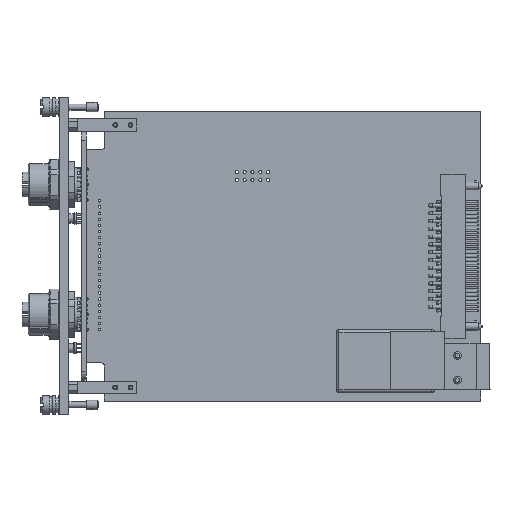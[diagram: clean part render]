
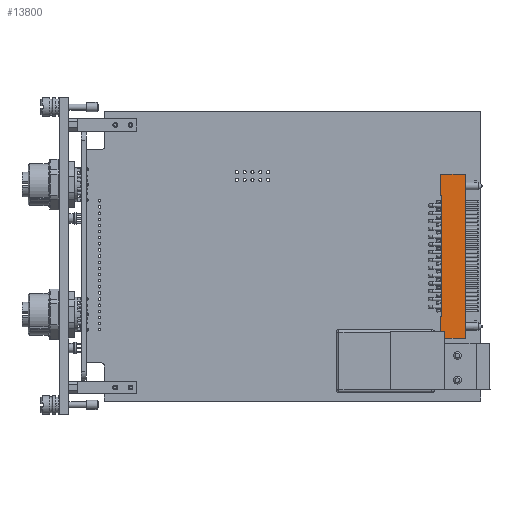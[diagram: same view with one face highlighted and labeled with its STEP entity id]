
A CAD part, top view. The second image highlights one B-rep face of the part: STEP entity #13800.
In plain terms, the highlighted planar face has unit normal (0, 0, 1).
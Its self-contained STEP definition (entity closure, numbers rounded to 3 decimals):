
#13800=ADVANCED_FACE('',(#37371),#37373,.F.);
#37371=FACE_BOUND('',#37372,.T.);
#37372=EDGE_LOOP('',(#54987,#54988,#54989,#54990,#54991,#54992,#54993,#54994));
#37373=PLANE('',#37374);
#37374=AXIS2_PLACEMENT_3D('',#37375,#37376,#37377);
#37375=CARTESIAN_POINT('',(166.325,59.,6.363));
#37376=DIRECTION('',(0.,0.,-1.));
#37377=DIRECTION('',(-1.,0.,0.));
#54987=ORIENTED_EDGE('',*,*,#63408,.T.);
#54988=ORIENTED_EDGE('',*,*,#63451,.T.);
#54989=ORIENTED_EDGE('',*,*,#63449,.T.);
#54990=ORIENTED_EDGE('',*,*,#63447,.T.);
#54991=ORIENTED_EDGE('',*,*,#63445,.T.);
#54992=ORIENTED_EDGE('',*,*,#63414,.T.);
#54993=ORIENTED_EDGE('',*,*,#63412,.T.);
#54994=ORIENTED_EDGE('',*,*,#63410,.T.);
#63408=EDGE_CURVE('',#72402,#72400,#72403,.T.);
#63410=EDGE_CURVE('',#72405,#72402,#72406,.T.);
#63412=EDGE_CURVE('',#72408,#72405,#72409,.T.);
#63414=EDGE_CURVE('',#72411,#72408,#72412,.T.);
#63445=EDGE_CURVE('',#72472,#72411,#72473,.T.);
#63447=EDGE_CURVE('',#72475,#72472,#72476,.T.);
#63449=EDGE_CURVE('',#72478,#72475,#72479,.T.);
#63451=EDGE_CURVE('',#72400,#72478,#72481,.T.);
#72400=VERTEX_POINT('',#98452);
#72402=VERTEX_POINT('',#98456);
#72403=LINE('',#98457,#98458);
#72405=VERTEX_POINT('',#98463);
#72406=LINE('',#98464,#98465);
#72408=VERTEX_POINT('',#98470);
#72409=LINE('',#98471,#98472);
#72411=VERTEX_POINT('',#98477);
#72412=LINE('',#98478,#98479);
#72472=VERTEX_POINT('',#98629);
#72473=LINE('',#98630,#98631);
#72475=VERTEX_POINT('',#98636);
#72476=LINE('',#98637,#98638);
#72478=VERTEX_POINT('',#98643);
#72479=LINE('',#98644,#98645);
#72481=LINE('',#98650,#98651);
#98452=CARTESIAN_POINT('',(174.225,59.,6.363));
#98456=CARTESIAN_POINT('',(166.325,59.,6.363));
#98457=CARTESIAN_POINT('',(166.325,59.,6.363));
#98458=VECTOR('',#98459,1.);
#98459=DIRECTION('',(1.,0.,0.));
#98463=CARTESIAN_POINT('',(166.325,66.,6.363));
#98464=CARTESIAN_POINT('',(166.325,66.,6.363));
#98465=VECTOR('',#98466,1.);
#98466=DIRECTION('',(0.,-1.,0.));
#98470=CARTESIAN_POINT('',(166.625,66.,6.363));
#98471=CARTESIAN_POINT('',(166.625,66.,6.363));
#98472=VECTOR('',#98473,1.);
#98473=DIRECTION('',(-1.,0.,0.));
#98477=CARTESIAN_POINT('',(166.625,105.5,6.363));
#98478=CARTESIAN_POINT('',(166.625,105.5,6.363));
#98479=VECTOR('',#98480,1.);
#98480=DIRECTION('',(0.,-1.,0.));
#98629=CARTESIAN_POINT('',(166.325,105.5,6.363));
#98630=CARTESIAN_POINT('',(166.325,105.5,6.363));
#98631=VECTOR('',#98632,1.);
#98632=DIRECTION('',(1.,0.,0.));
#98636=CARTESIAN_POINT('',(166.325,112.5,6.363));
#98637=CARTESIAN_POINT('',(166.325,112.5,6.363));
#98638=VECTOR('',#98639,1.);
#98639=DIRECTION('',(0.,-1.,0.));
#98643=CARTESIAN_POINT('',(174.225,112.5,6.363));
#98644=CARTESIAN_POINT('',(174.225,112.5,6.363));
#98645=VECTOR('',#98646,1.);
#98646=DIRECTION('',(-1.,0.,0.));
#98650=CARTESIAN_POINT('',(174.225,59.,6.363));
#98651=VECTOR('',#98652,1.);
#98652=DIRECTION('',(0.,1.,0.));
